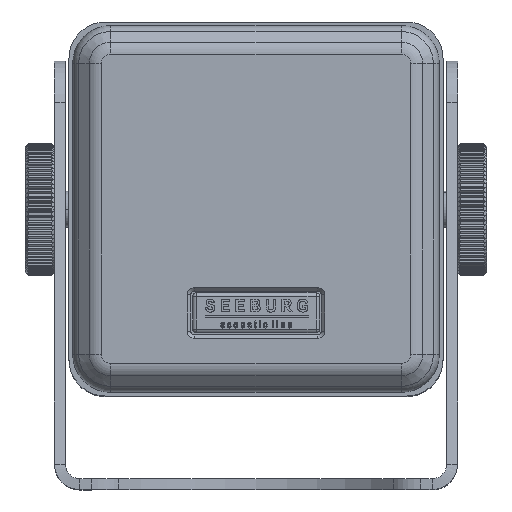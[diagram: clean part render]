
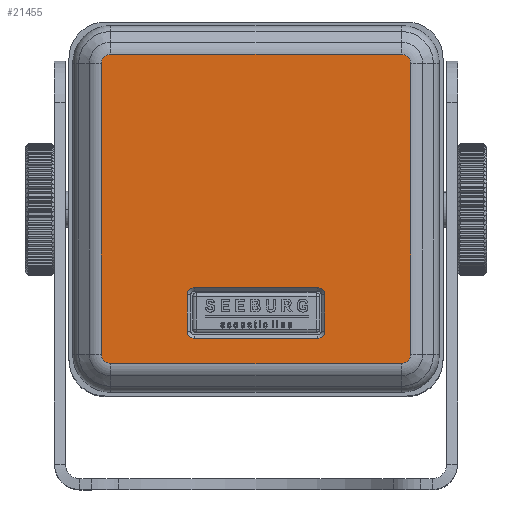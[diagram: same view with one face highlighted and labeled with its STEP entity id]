
A CAD part, top view. The second image highlights one B-rep face of the part: STEP entity #21455.
In plain terms, the highlighted planar face has unit normal (0, 0, 1).
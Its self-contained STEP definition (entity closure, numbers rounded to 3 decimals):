
#333 = LINE ( 'NONE', #3402, #335 ) ;
#334 = CIRCLE ( 'NONE', #13228, 2. ) ;
#335 = VECTOR ( 'NONE', #3404, 1000. ) ;
#336 = LINE ( 'NONE', #3413, #338 ) ;
#337 = CIRCLE ( 'NONE', #13229, 2. ) ;
#338 = VECTOR ( 'NONE', #3415, 1000. ) ;
#339 = LINE ( 'NONE', #3425, #341 ) ;
#340 = CIRCLE ( 'NONE', #13230, 2. ) ;
#341 = VECTOR ( 'NONE', #3427, 1000. ) ;
#342 = LINE ( 'NONE', #3437, #344 ) ;
#343 = CIRCLE ( 'NONE', #13231, 2. ) ;
#344 = VECTOR ( 'NONE', #3439, 1000. ) ;
#345 = LINE ( 'NONE', #3441, #346 ) ;
#346 = VECTOR ( 'NONE', #3443, 1000. ) ;
#347 = LINE ( 'NONE', #3452, #349 ) ;
#348 = CIRCLE ( 'NONE', #13232, 2.581 ) ;
#349 = VECTOR ( 'NONE', #3454, 1000. ) ;
#350 = LINE ( 'NONE', #3464, #352 ) ;
#351 = CIRCLE ( 'NONE', #13233, 2.581 ) ;
#352 = VECTOR ( 'NONE', #3466, 1000. ) ;
#353 = LINE ( 'NONE', #3476, #355 ) ;
#354 = CIRCLE ( 'NONE', #13234, 2.581 ) ;
#355 = VECTOR ( 'NONE', #3477, 1000. ) ;
#357 = CIRCLE ( 'NONE', #13235, 2.581 ) ;
#2940 = AXIS2_PLACEMENT_3D ( 'NONE', #17722, #17723, #17724 ) ;
#3397 = CARTESIAN_POINT ( 'NONE',  ( -17., -23.662, 113. ) ) ;
#3398 = DIRECTION ( 'NONE',  ( 0., 0., -1. ) ) ;
#3400 = DIRECTION ( 'NONE',  ( 1., 0., 0. ) ) ;
#3402 = CARTESIAN_POINT ( 'NONE',  ( 17., -21.662, 113. ) ) ;
#3404 = DIRECTION ( 'NONE',  ( 1., 0., 0. ) ) ;
#3406 = CARTESIAN_POINT ( 'NONE',  ( 17., -23.662, 113. ) ) ;
#3408 = DIRECTION ( 'NONE',  ( 0., 0., -1. ) ) ;
#3410 = DIRECTION ( 'NONE',  ( 1., 0., 0. ) ) ;
#3413 = CARTESIAN_POINT ( 'NONE',  ( 19., -33.662, 113. ) ) ;
#3415 = DIRECTION ( 'NONE',  ( 0., -1., 0. ) ) ;
#3418 = CARTESIAN_POINT ( 'NONE',  ( 17., -33.662, 113. ) ) ;
#3420 = DIRECTION ( 'NONE',  ( 0., 0., -1. ) ) ;
#3422 = DIRECTION ( 'NONE',  ( 1., 0., 0. ) ) ;
#3425 = CARTESIAN_POINT ( 'NONE',  ( -17., -35.662, 113. ) ) ;
#3427 = DIRECTION ( 'NONE',  ( -1., 0., 0. ) ) ;
#3430 = CARTESIAN_POINT ( 'NONE',  ( -17., -33.662, 113. ) ) ;
#3432 = DIRECTION ( 'NONE',  ( 0., 0., -1. ) ) ;
#3434 = DIRECTION ( 'NONE',  ( 1., 0., 0. ) ) ;
#3437 = CARTESIAN_POINT ( 'NONE',  ( -19., -23.662, 113. ) ) ;
#3439 = DIRECTION ( 'NONE',  ( 0., 1., 0. ) ) ;
#3441 = CARTESIAN_POINT ( 'NONE',  ( 42.581, -112.341, 113. ) ) ;
#3443 = DIRECTION ( 'NONE',  ( 0., 1., 0. ) ) ;
#3445 = CARTESIAN_POINT ( 'NONE',  ( 40., 40., 113. ) ) ;
#3447 = DIRECTION ( 'NONE',  ( 0., 0., 1. ) ) ;
#3449 = DIRECTION ( 'NONE',  ( 1., 0., 0. ) ) ;
#3452 = CARTESIAN_POINT ( 'NONE',  ( 0., 42.581, 113. ) ) ;
#3454 = DIRECTION ( 'NONE',  ( -1., 0., 0. ) ) ;
#3457 = CARTESIAN_POINT ( 'NONE',  ( -40., 40., 113. ) ) ;
#3459 = DIRECTION ( 'NONE',  ( 0., 0., 1. ) ) ;
#3461 = DIRECTION ( 'NONE',  ( 1., 0., 0. ) ) ;
#3464 = CARTESIAN_POINT ( 'NONE',  ( -42.581, -112.341, 113. ) ) ;
#3466 = DIRECTION ( 'NONE',  ( 0., -1., 0. ) ) ;
#3469 = CARTESIAN_POINT ( 'NONE',  ( -40., -40., 113. ) ) ;
#3471 = DIRECTION ( 'NONE',  ( 0., 0., 1. ) ) ;
#3473 = DIRECTION ( 'NONE',  ( 1., 0., 0. ) ) ;
#3476 = CARTESIAN_POINT ( 'NONE',  ( 0., -42.581, 113. ) ) ;
#3477 = DIRECTION ( 'NONE',  ( 1., 0., 0. ) ) ;
#3480 = CARTESIAN_POINT ( 'NONE',  ( 40., -40., 113. ) ) ;
#3482 = DIRECTION ( 'NONE',  ( 0., 0., 1. ) ) ;
#3484 = DIRECTION ( 'NONE',  ( 1., 0., 0. ) ) ;
#8788 = CARTESIAN_POINT ( 'NONE',  ( 40., -42.581, 113. ) ) ;
#8794 = CARTESIAN_POINT ( 'NONE',  ( -40., -42.581, 113. ) ) ;
#11716 = FACE_BOUND ( 'NONE', #29002, .T. ) ;
#11717 = FACE_OUTER_BOUND ( 'NONE', #29001, .T. ) ;
#13228 = AXIS2_PLACEMENT_3D ( 'NONE', #3397, #3398, #3400 ) ;
#13229 = AXIS2_PLACEMENT_3D ( 'NONE', #3406, #3408, #3410 ) ;
#13230 = AXIS2_PLACEMENT_3D ( 'NONE', #3418, #3420, #3422 ) ;
#13231 = AXIS2_PLACEMENT_3D ( 'NONE', #3430, #3432, #3434 ) ;
#13232 = AXIS2_PLACEMENT_3D ( 'NONE', #3445, #3447, #3449 ) ;
#13233 = AXIS2_PLACEMENT_3D ( 'NONE', #3457, #3459, #3461 ) ;
#13234 = AXIS2_PLACEMENT_3D ( 'NONE', #3469, #3471, #3473 ) ;
#13235 = AXIS2_PLACEMENT_3D ( 'NONE', #3480, #3482, #3484 ) ;
#15104 = CARTESIAN_POINT ( 'NONE',  ( 40., 42.581, 113. ) ) ;
#15110 = CARTESIAN_POINT ( 'NONE',  ( -42.581, -40., 113. ) ) ;
#15127 = CARTESIAN_POINT ( 'NONE',  ( -42.581, 40., 113. ) ) ;
#15136 = CARTESIAN_POINT ( 'NONE',  ( -40., 42.581, 113. ) ) ;
#15169 = CARTESIAN_POINT ( 'NONE',  ( 42.581, 40., 113. ) ) ;
#15170 = CARTESIAN_POINT ( 'NONE',  ( 42.581, -40., 113. ) ) ;
#15171 = CARTESIAN_POINT ( 'NONE',  ( -19., -33.662, 113. ) ) ;
#15182 = CARTESIAN_POINT ( 'NONE',  ( -17., -35.662, 113. ) ) ;
#15189 = CARTESIAN_POINT ( 'NONE',  ( 17., -35.662, 113. ) ) ;
#15199 = CARTESIAN_POINT ( 'NONE',  ( 19., -33.662, 113. ) ) ;
#15204 = CARTESIAN_POINT ( 'NONE',  ( 19., -23.662, 113. ) ) ;
#15211 = CARTESIAN_POINT ( 'NONE',  ( 17., -21.662, 113. ) ) ;
#15219 = CARTESIAN_POINT ( 'NONE',  ( -17., -21.662, 113. ) ) ;
#15222 = CARTESIAN_POINT ( 'NONE',  ( -19., -23.662, 113. ) ) ;
#17721 = PLANE ( 'NONE',  #2940 ) ;
#17722 = CARTESIAN_POINT ( 'NONE',  ( 0., -112.341, 113. ) ) ;
#17723 = DIRECTION ( 'NONE',  ( 0., 0., 1. ) ) ;
#17724 = DIRECTION ( 'NONE',  ( 1., 0., 0. ) ) ;
#21455 = ADVANCED_FACE ( 'NONE', ( #11716, #11717 ), #17721, .T. ) ;
#29001 = EDGE_LOOP ( 'NONE', ( #34098, #34096, #34094, #34091, #34090, #34088, #34086, #34084 ) ) ;
#29002 = EDGE_LOOP ( 'NONE', ( #34113, #34111, #34109, #34107, #34105, #34104, #34101, #34099 ) ) ;
#30285 = EDGE_CURVE ( 'NONE', #33546, #33543, #334, .T. ) ;
#30286 = EDGE_CURVE ( 'NONE', #33543, #33535, #333, .T. ) ;
#30287 = EDGE_CURVE ( 'NONE', #33535, #33528, #337, .T. ) ;
#30288 = EDGE_CURVE ( 'NONE', #33528, #33522, #336, .T. ) ;
#30289 = EDGE_CURVE ( 'NONE', #33522, #33504, #340, .T. ) ;
#30290 = EDGE_CURVE ( 'NONE', #33504, #33494, #339, .T. ) ;
#30291 = EDGE_CURVE ( 'NONE', #33494, #33483, #343, .T. ) ;
#30292 = EDGE_CURVE ( 'NONE', #33483, #33546, #342, .T. ) ;
#30293 = EDGE_CURVE ( 'NONE', #33482, #33481, #345, .T. ) ;
#30294 = EDGE_CURVE ( 'NONE', #33481, #33407, #348, .T. ) ;
#30295 = EDGE_CURVE ( 'NONE', #33407, #33448, #347, .T. ) ;
#30296 = EDGE_CURVE ( 'NONE', #33448, #33439, #351, .T. ) ;
#30297 = EDGE_CURVE ( 'NONE', #33439, #33416, #350, .T. ) ;
#30298 = EDGE_CURVE ( 'NONE', #33416, #33630, #354, .T. ) ;
#30299 = EDGE_CURVE ( 'NONE', #33630, #33624, #353, .T. ) ;
#30300 = EDGE_CURVE ( 'NONE', #33624, #33482, #357, .T. ) ;
#33407 = VERTEX_POINT ( 'NONE', #15104 ) ;
#33416 = VERTEX_POINT ( 'NONE', #15110 ) ;
#33439 = VERTEX_POINT ( 'NONE', #15127 ) ;
#33448 = VERTEX_POINT ( 'NONE', #15136 ) ;
#33481 = VERTEX_POINT ( 'NONE', #15169 ) ;
#33482 = VERTEX_POINT ( 'NONE', #15170 ) ;
#33483 = VERTEX_POINT ( 'NONE', #15171 ) ;
#33494 = VERTEX_POINT ( 'NONE', #15182 ) ;
#33504 = VERTEX_POINT ( 'NONE', #15189 ) ;
#33522 = VERTEX_POINT ( 'NONE', #15199 ) ;
#33528 = VERTEX_POINT ( 'NONE', #15204 ) ;
#33535 = VERTEX_POINT ( 'NONE', #15211 ) ;
#33543 = VERTEX_POINT ( 'NONE', #15219 ) ;
#33546 = VERTEX_POINT ( 'NONE', #15222 ) ;
#33624 = VERTEX_POINT ( 'NONE', #8788 ) ;
#33630 = VERTEX_POINT ( 'NONE', #8794 ) ;
#34084 = ORIENTED_EDGE ( 'NONE', *, *, #30300, .T. ) ;
#34086 = ORIENTED_EDGE ( 'NONE', *, *, #30299, .T. ) ;
#34088 = ORIENTED_EDGE ( 'NONE', *, *, #30298, .T. ) ;
#34090 = ORIENTED_EDGE ( 'NONE', *, *, #30297, .T. ) ;
#34091 = ORIENTED_EDGE ( 'NONE', *, *, #30296, .T. ) ;
#34094 = ORIENTED_EDGE ( 'NONE', *, *, #30295, .T. ) ;
#34096 = ORIENTED_EDGE ( 'NONE', *, *, #30294, .T. ) ;
#34098 = ORIENTED_EDGE ( 'NONE', *, *, #30293, .T. ) ;
#34099 = ORIENTED_EDGE ( 'NONE', *, *, #30292, .T. ) ;
#34101 = ORIENTED_EDGE ( 'NONE', *, *, #30291, .T. ) ;
#34104 = ORIENTED_EDGE ( 'NONE', *, *, #30290, .T. ) ;
#34105 = ORIENTED_EDGE ( 'NONE', *, *, #30289, .T. ) ;
#34107 = ORIENTED_EDGE ( 'NONE', *, *, #30288, .T. ) ;
#34109 = ORIENTED_EDGE ( 'NONE', *, *, #30287, .T. ) ;
#34111 = ORIENTED_EDGE ( 'NONE', *, *, #30286, .T. ) ;
#34113 = ORIENTED_EDGE ( 'NONE', *, *, #30285, .T. ) ;
